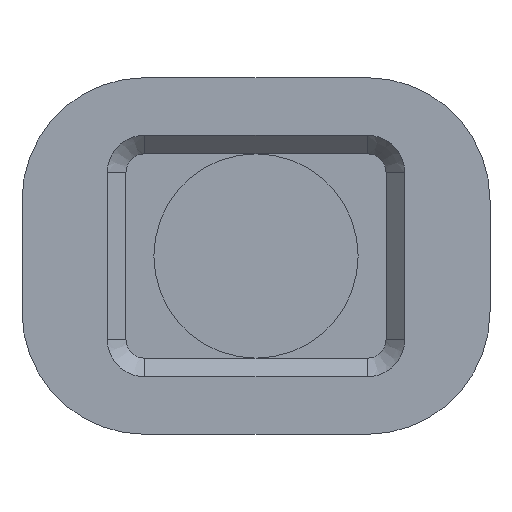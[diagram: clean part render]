
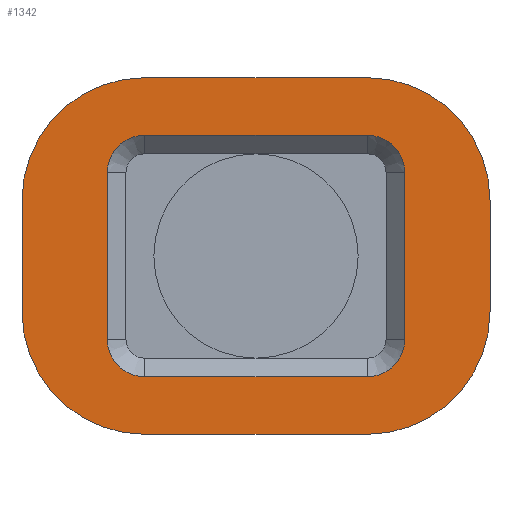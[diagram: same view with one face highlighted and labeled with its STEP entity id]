
A CAD part, front view. The second image highlights one B-rep face of the part: STEP entity #1342.
In plain terms, the highlighted planar face has unit normal (0, -1, 0).
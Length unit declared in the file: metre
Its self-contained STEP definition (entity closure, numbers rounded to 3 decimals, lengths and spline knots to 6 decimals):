
#56=CIRCLE('',#1439,0.0033);
#57=CIRCLE('',#1440,0.0033);
#58=CIRCLE('',#1441,0.0033);
#59=CIRCLE('',#1442,0.0033);
#60=CIRCLE('',#1443,0.001);
#61=CIRCLE('',#1444,0.001);
#62=CIRCLE('',#1445,0.001);
#63=CIRCLE('',#1446,0.001);
#134=ORIENTED_EDGE('',*,*,#544,.F.);
#135=ORIENTED_EDGE('',*,*,#545,.T.);
#136=ORIENTED_EDGE('',*,*,#546,.F.);
#137=ORIENTED_EDGE('',*,*,#547,.T.);
#138=ORIENTED_EDGE('',*,*,#548,.F.);
#139=ORIENTED_EDGE('',*,*,#549,.F.);
#140=ORIENTED_EDGE('',*,*,#550,.F.);
#141=ORIENTED_EDGE('',*,*,#551,.F.);
#142=ORIENTED_EDGE('',*,*,#552,.F.);
#143=ORIENTED_EDGE('',*,*,#553,.T.);
#144=ORIENTED_EDGE('',*,*,#554,.F.);
#145=ORIENTED_EDGE('',*,*,#555,.F.);
#146=ORIENTED_EDGE('',*,*,#556,.F.);
#147=ORIENTED_EDGE('',*,*,#557,.F.);
#148=ORIENTED_EDGE('',*,*,#558,.F.);
#149=ORIENTED_EDGE('',*,*,#559,.T.);
#544=EDGE_CURVE('',#749,#750,#56,.F.);
#545=EDGE_CURVE('',#749,#751,#877,.T.);
#546=EDGE_CURVE('',#752,#751,#57,.F.);
#547=EDGE_CURVE('',#752,#753,#878,.T.);
#548=EDGE_CURVE('',#754,#753,#58,.F.);
#549=EDGE_CURVE('',#755,#754,#879,.T.);
#550=EDGE_CURVE('',#756,#755,#59,.F.);
#551=EDGE_CURVE('',#750,#756,#880,.T.);
#552=EDGE_CURVE('',#757,#758,#60,.T.);
#553=EDGE_CURVE('',#757,#759,#881,.T.);
#554=EDGE_CURVE('',#760,#759,#61,.T.);
#555=EDGE_CURVE('',#761,#760,#882,.T.);
#556=EDGE_CURVE('',#762,#761,#62,.T.);
#557=EDGE_CURVE('',#763,#762,#883,.T.);
#558=EDGE_CURVE('',#764,#763,#63,.T.);
#559=EDGE_CURVE('',#764,#758,#884,.T.);
#749=VERTEX_POINT('',#2047);
#750=VERTEX_POINT('',#2048);
#751=VERTEX_POINT('',#2050);
#752=VERTEX_POINT('',#2052);
#753=VERTEX_POINT('',#2054);
#754=VERTEX_POINT('',#2056);
#755=VERTEX_POINT('',#2058);
#756=VERTEX_POINT('',#2060);
#757=VERTEX_POINT('',#2063);
#758=VERTEX_POINT('',#2064);
#759=VERTEX_POINT('',#2066);
#760=VERTEX_POINT('',#2068);
#761=VERTEX_POINT('',#2070);
#762=VERTEX_POINT('',#2072);
#763=VERTEX_POINT('',#2074);
#764=VERTEX_POINT('',#2076);
#877=LINE('',#2049,#1007);
#878=LINE('',#2053,#1008);
#879=LINE('',#2057,#1009);
#880=LINE('',#2061,#1010);
#881=LINE('',#2065,#1011);
#882=LINE('',#2069,#1012);
#883=LINE('',#2073,#1013);
#884=LINE('',#2077,#1014);
#1007=VECTOR('',#1606,1.);
#1008=VECTOR('',#1609,1.);
#1009=VECTOR('',#1612,1.);
#1010=VECTOR('',#1615,1.);
#1011=VECTOR('',#1618,1.);
#1012=VECTOR('',#1621,1.);
#1013=VECTOR('',#1624,1.);
#1014=VECTOR('',#1627,1.);
#1135=EDGE_LOOP('',(#134,#135,#136,#137,#138,#139,#140,#141));
#1136=EDGE_LOOP('',(#142,#143,#144,#145,#146,#147,#148,#149));
#1219=FACE_BOUND('',#1135,.T.);
#1220=FACE_BOUND('',#1136,.T.);
#1303=PLANE('',#1438);
#1342=ADVANCED_FACE('',(#1219,#1220),#1303,.T.);
#1438=AXIS2_PLACEMENT_3D('',#2045,#1602,#1603);
#1439=AXIS2_PLACEMENT_3D('',#2046,#1604,#1605);
#1440=AXIS2_PLACEMENT_3D('',#2051,#1607,#1608);
#1441=AXIS2_PLACEMENT_3D('',#2055,#1610,#1611);
#1442=AXIS2_PLACEMENT_3D('',#2059,#1613,#1614);
#1443=AXIS2_PLACEMENT_3D('',#2062,#1616,#1617);
#1444=AXIS2_PLACEMENT_3D('',#2067,#1619,#1620);
#1445=AXIS2_PLACEMENT_3D('',#2071,#1622,#1623);
#1446=AXIS2_PLACEMENT_3D('',#2075,#1625,#1626);
#1602=DIRECTION('',(0.,-1.,0.));
#1603=DIRECTION('',(1.,0.,0.));
#1604=DIRECTION('',(0.,-1.,0.));
#1605=DIRECTION('',(0.,0.,-1.));
#1606=DIRECTION('',(-1.,0.,0.));
#1607=DIRECTION('',(0.,-1.,0.));
#1608=DIRECTION('',(0.,0.,-1.));
#1609=DIRECTION('',(0.,0.,-1.));
#1610=DIRECTION('',(0.,-1.,0.));
#1611=DIRECTION('',(0.,0.,-1.));
#1612=DIRECTION('',(-1.,0.,0.));
#1613=DIRECTION('',(0.,-1.,0.));
#1614=DIRECTION('',(0.,0.,-1.));
#1615=DIRECTION('',(0.,0.,-1.));
#1616=DIRECTION('',(0.,-1.,0.));
#1617=DIRECTION('',(0.,0.,-1.));
#1618=DIRECTION('',(0.,0.,-1.));
#1619=DIRECTION('',(0.,-1.,0.));
#1620=DIRECTION('',(0.,0.,-1.));
#1621=DIRECTION('',(1.,0.,0.));
#1622=DIRECTION('',(0.,-1.,0.));
#1623=DIRECTION('',(0.,0.,-1.));
#1624=DIRECTION('',(0.,0.,-1.));
#1625=DIRECTION('',(0.,-1.,0.));
#1626=DIRECTION('',(0.,0.,-1.));
#1627=DIRECTION('',(1.,0.,0.));
#2045=CARTESIAN_POINT('',(0.,0.0062,0.));
#2046=CARTESIAN_POINT('',(-0.093875,0.0062,-0.044005));
#2047=CARTESIAN_POINT('',(-0.093875,0.0062,-0.040705));
#2048=CARTESIAN_POINT('',(-0.090575,0.0062,-0.044005));
#2049=CARTESIAN_POINT('',(-0.096875,0.0062,-0.040705));
#2050=CARTESIAN_POINT('',(-0.099875,0.0062,-0.040705));
#2051=CARTESIAN_POINT('',(-0.099875,0.0062,-0.044005));
#2052=CARTESIAN_POINT('',(-0.103175,0.0062,-0.044005));
#2053=CARTESIAN_POINT('',(-0.103175,0.0062,-0.045505));
#2054=CARTESIAN_POINT('',(-0.103175,0.0062,-0.047005));
#2055=CARTESIAN_POINT('',(-0.099875,0.0062,-0.047005));
#2056=CARTESIAN_POINT('',(-0.099875,0.0062,-0.050305));
#2057=CARTESIAN_POINT('',(-0.096875,0.0062,-0.050305));
#2058=CARTESIAN_POINT('',(-0.093875,0.0062,-0.050305));
#2059=CARTESIAN_POINT('',(-0.093875,0.0062,-0.047005));
#2060=CARTESIAN_POINT('',(-0.090575,0.0062,-0.047005));
#2061=CARTESIAN_POINT('',(-0.090575,0.0062,-0.045505));
#2062=CARTESIAN_POINT('',(-0.093875,0.0062,-0.043255));
#2063=CARTESIAN_POINT('',(-0.092875,0.0062,-0.043255));
#2064=CARTESIAN_POINT('',(-0.093875,0.0062,-0.042255));
#2065=CARTESIAN_POINT('',(-0.092875,0.0062,-0.045505));
#2066=CARTESIAN_POINT('',(-0.092875,0.0062,-0.047755));
#2067=CARTESIAN_POINT('',(-0.093875,0.0062,-0.047755));
#2068=CARTESIAN_POINT('',(-0.093875,0.0062,-0.048755));
#2069=CARTESIAN_POINT('',(-0.096875,0.0062,-0.048755));
#2070=CARTESIAN_POINT('',(-0.099875,0.0062,-0.048755));
#2071=CARTESIAN_POINT('',(-0.099875,0.0062,-0.047755));
#2072=CARTESIAN_POINT('',(-0.100875,0.0062,-0.047755));
#2073=CARTESIAN_POINT('',(-0.100875,0.0062,-0.045505));
#2074=CARTESIAN_POINT('',(-0.100875,0.0062,-0.043255));
#2075=CARTESIAN_POINT('',(-0.099875,0.0062,-0.043255));
#2076=CARTESIAN_POINT('',(-0.099875,0.0062,-0.042255));
#2077=CARTESIAN_POINT('',(-0.096875,0.0062,-0.042255));
